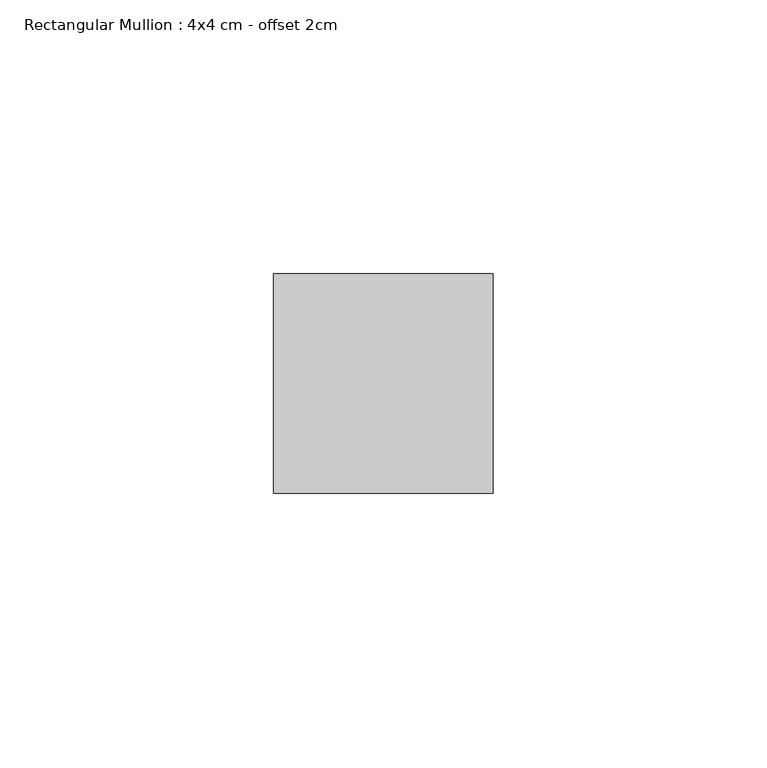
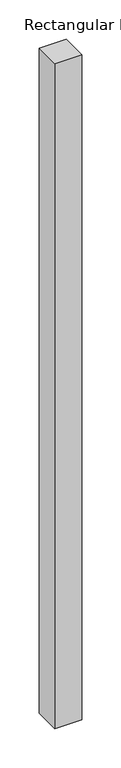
"""IFC4 building model written with IfcOpenShell, lengths in millimetres: member geometry, Rectangular Mullion : 4x4 cm - offset 2cm."""

from ifc_helpers import new_model, si_unit, frame, origin, place, context, project, spatial, polyline, outline, extrude, source, transform, mapped, element, save


def rectangular_mullion_4x4_cm_offset_2cm_927117c5(model_context):
    return source(origin(), model_context, "Body", "SweptSolid", [
        extrude(outline(polyline([(0.0, 0.0), (0.0, -40.0), (-40.0, -40.0), (-40.0, 0.0), (0.0, 0.0)])), frame((0.0, 0.0, -1040.0), z_axis=(0.0, 0.0, 1.0), x_axis=(1.0, 0.0, 0.0)), (0.0, 0.0, 1.0), 1040.0),
    ])


if __name__ == "__main__":
    model = new_model("IFC4")
    model_context = context("Model", 3, world=origin())
    ifc_project = project(units=[si_unit("LENGTHUNIT", "METRE", prefix="MILLI")], contexts=[model_context])
    site = spatial("IfcSite", under=ifc_project)
    building = spatial("IfcBuilding", under=site)
    placement = place(None, origin())
    rectangular_mullion_4x4_cm_offset_2cm_shape = rectangular_mullion_4x4_cm_offset_2cm_927117c5(model_context)
    element("IfcMember", 1, ObjectType="Rectangular Mullion : 4x4 cm - offset 2cm", at=placement, inside=building, context=model_context, shape_type="MappedRepresentation", body=[
        mapped(rectangular_mullion_4x4_cm_offset_2cm_shape, transform((0.0, 0.0, 0.0), x_axis=(1.0, 0.0, 0.0), y_axis=(0.0, 1.0, 0.0), z_axis=(0.0, 0.0, 1.0))),
    ])
    save(model, "model.ifc")
